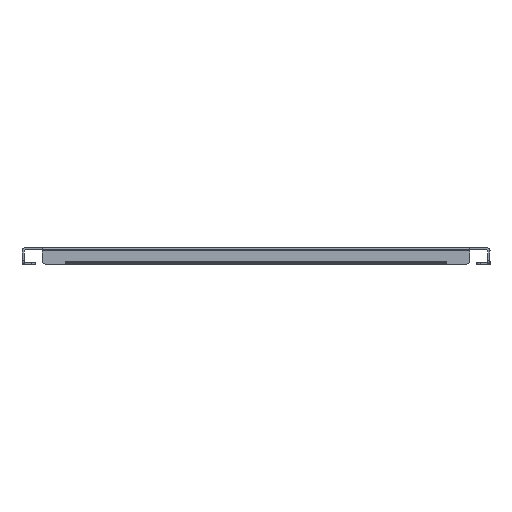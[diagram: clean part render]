
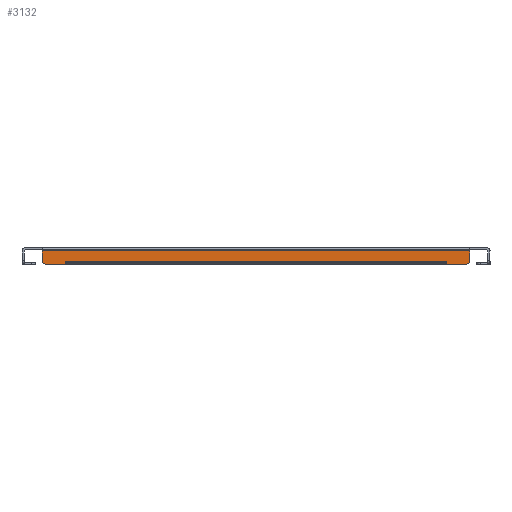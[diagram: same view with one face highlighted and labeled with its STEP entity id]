
A CAD part, front view. The second image highlights one B-rep face of the part: STEP entity #3132.
In plain terms, the highlighted planar face has unit normal (0, -1, 0).
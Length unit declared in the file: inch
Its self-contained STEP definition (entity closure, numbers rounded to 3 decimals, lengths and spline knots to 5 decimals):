
#82=PLANE('',#3407);
#200=FACE_OUTER_BOUND('',#390,.T.);
#390=EDGE_LOOP('',(#2467,#2468,#2469,#2470,#2471,#2472,#2473,#2474,#2475,
#2476,#2477,#2478,#2479,#2480));
#606=LINE('',#4836,#938);
#626=LINE('',#4904,#958);
#644=LINE('',#4965,#976);
#647=LINE('',#4970,#979);
#648=LINE('',#4974,#980);
#649=LINE('',#4976,#981);
#650=LINE('',#4978,#982);
#651=LINE('',#4980,#983);
#652=LINE('',#4982,#984);
#653=LINE('',#4984,#985);
#654=LINE('',#4986,#986);
#655=LINE('',#4987,#987);
#938=VECTOR('',#3897,0.3937);
#958=VECTOR('',#3951,0.3937);
#976=VECTOR('',#4001,0.3937);
#979=VECTOR('',#4006,0.3937);
#980=VECTOR('',#4009,0.3937);
#981=VECTOR('',#4010,0.3937);
#982=VECTOR('',#4011,0.3937);
#983=VECTOR('',#4012,0.3937);
#984=VECTOR('',#4013,0.3937);
#985=VECTOR('',#4014,0.3937);
#986=VECTOR('',#4015,0.3937);
#987=VECTOR('',#4016,0.3937);
#1233=CIRCLE('',#3405,0.125);
#1234=CIRCLE('',#3408,0.125);
#1409=VERTEX_POINT('',#4833);
#1410=VERTEX_POINT('',#4835);
#1440=VERTEX_POINT('',#4901);
#1441=VERTEX_POINT('',#4903);
#1467=VERTEX_POINT('',#4960);
#1468=VERTEX_POINT('',#4964);
#1470=VERTEX_POINT('',#4971);
#1471=VERTEX_POINT('',#4973);
#1472=VERTEX_POINT('',#4975);
#1473=VERTEX_POINT('',#4977);
#1474=VERTEX_POINT('',#4979);
#1475=VERTEX_POINT('',#4981);
#1476=VERTEX_POINT('',#4983);
#1477=VERTEX_POINT('',#4985);
#1772=EDGE_CURVE('',#1410,#1409,#606,.T.);
#1806=EDGE_CURVE('',#1441,#1440,#626,.T.);
#1835=EDGE_CURVE('',#1441,#1467,#1233,.T.);
#1837=EDGE_CURVE('',#1468,#1467,#644,.T.);
#1840=EDGE_CURVE('',#1410,#1440,#647,.T.);
#1841=EDGE_CURVE('',#1470,#1409,#1234,.T.);
#1842=EDGE_CURVE('',#1470,#1471,#648,.T.);
#1843=EDGE_CURVE('',#1471,#1472,#649,.T.);
#1844=EDGE_CURVE('',#1472,#1473,#650,.T.);
#1845=EDGE_CURVE('',#1473,#1474,#651,.T.);
#1846=EDGE_CURVE('',#1474,#1475,#652,.T.);
#1847=EDGE_CURVE('',#1475,#1476,#653,.T.);
#1848=EDGE_CURVE('',#1476,#1477,#654,.T.);
#1849=EDGE_CURVE('',#1477,#1468,#655,.T.);
#2467=ORIENTED_EDGE('',*,*,#1835,.F.);
#2468=ORIENTED_EDGE('',*,*,#1806,.T.);
#2469=ORIENTED_EDGE('',*,*,#1840,.F.);
#2470=ORIENTED_EDGE('',*,*,#1772,.T.);
#2471=ORIENTED_EDGE('',*,*,#1841,.F.);
#2472=ORIENTED_EDGE('',*,*,#1842,.T.);
#2473=ORIENTED_EDGE('',*,*,#1843,.T.);
#2474=ORIENTED_EDGE('',*,*,#1844,.T.);
#2475=ORIENTED_EDGE('',*,*,#1845,.T.);
#2476=ORIENTED_EDGE('',*,*,#1846,.T.);
#2477=ORIENTED_EDGE('',*,*,#1847,.T.);
#2478=ORIENTED_EDGE('',*,*,#1848,.T.);
#2479=ORIENTED_EDGE('',*,*,#1849,.T.);
#2480=ORIENTED_EDGE('',*,*,#1837,.T.);
#3132=ADVANCED_FACE('',(#200),#82,.F.);
#3405=AXIS2_PLACEMENT_3D('',#4961,#3996,#3997);
#3407=AXIS2_PLACEMENT_3D('',#4969,#4004,#4005);
#3408=AXIS2_PLACEMENT_3D('',#4972,#4007,#4008);
#3897=DIRECTION('',(0.,0.,-1.));
#3951=DIRECTION('',(0.,0.,1.));
#3996=DIRECTION('center_axis',(0.,1.,0.));
#3997=DIRECTION('ref_axis',(0.707,0.,-0.707));
#4001=DIRECTION('',(1.,0.,0.));
#4004=DIRECTION('center_axis',(0.,1.,0.));
#4005=DIRECTION('ref_axis',(0.,0.,1.));
#4006=DIRECTION('',(1.,0.,0.));
#4007=DIRECTION('center_axis',(0.,1.,0.));
#4008=DIRECTION('ref_axis',(-0.707,0.,-0.707));
#4009=DIRECTION('',(1.,0.,0.));
#4010=DIRECTION('',(0.,0.,1.));
#4011=DIRECTION('',(1.,0.,0.));
#4012=DIRECTION('',(0.,0.,-1.));
#4013=DIRECTION('',(1.,0.,0.));
#4014=DIRECTION('',(0.,0.,1.));
#4015=DIRECTION('',(1.,0.,0.));
#4016=DIRECTION('',(0.,0.,-1.));
#4833=CARTESIAN_POINT('',(-6.6875,-14.5,-0.319));
#4835=CARTESIAN_POINT('',(-6.6875,-14.5,-0.031));
#4836=CARTESIAN_POINT('',(-6.6875,-14.5,0.068));
#4901=CARTESIAN_POINT('',(6.6875,-14.5,-0.031));
#4903=CARTESIAN_POINT('',(6.6875,-14.5,-0.319));
#4904=CARTESIAN_POINT('',(6.6875,-14.5,-0.444));
#4960=CARTESIAN_POINT('',(6.5625,-14.5,-0.444));
#4961=CARTESIAN_POINT('Origin',(6.5625,-14.5,-0.319));
#4964=CARTESIAN_POINT('',(5.9377,-14.5,-0.444));
#4965=CARTESIAN_POINT('',(-6.6875,-14.5,-0.444));
#4969=CARTESIAN_POINT('Origin',(0.,-14.5,-0.188));
#4970=CARTESIAN_POINT('',(6.6875,-14.5,-0.031));
#4971=CARTESIAN_POINT('',(-6.5625,-14.5,-0.444));
#4972=CARTESIAN_POINT('Origin',(-6.5625,-14.5,-0.319));
#4973=CARTESIAN_POINT('',(-5.9377,-14.5,-0.444));
#4974=CARTESIAN_POINT('',(-6.6875,-14.5,-0.444));
#4975=CARTESIAN_POINT('',(-5.9377,-14.5,-0.3448));
#4976=CARTESIAN_POINT('',(-5.9377,-14.5,-0.316));
#4977=CARTESIAN_POINT('',(-5.9375,-14.5,-0.3448));
#4978=CARTESIAN_POINT('',(-2.96885,-14.5,-0.3448));
#4979=CARTESIAN_POINT('',(-5.9375,-14.5,-0.345));
#4980=CARTESIAN_POINT('',(-5.9375,-14.5,-0.2664));
#4981=CARTESIAN_POINT('',(5.9375,-14.5,-0.345));
#4982=CARTESIAN_POINT('',(2.96875,-14.5,-0.345));
#4983=CARTESIAN_POINT('',(5.9375,-14.5,-0.3448));
#4984=CARTESIAN_POINT('',(5.9375,-14.5,-0.316));
#4985=CARTESIAN_POINT('',(5.9377,-14.5,-0.3448));
#4986=CARTESIAN_POINT('',(2.96875,-14.5,-0.3448));
#4987=CARTESIAN_POINT('',(5.9377,-14.5,-0.2664));
